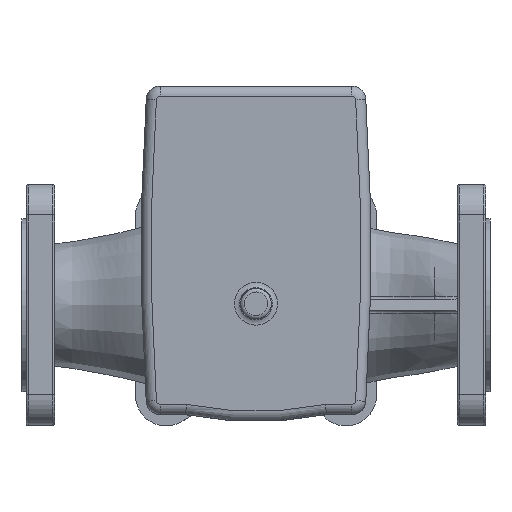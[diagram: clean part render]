
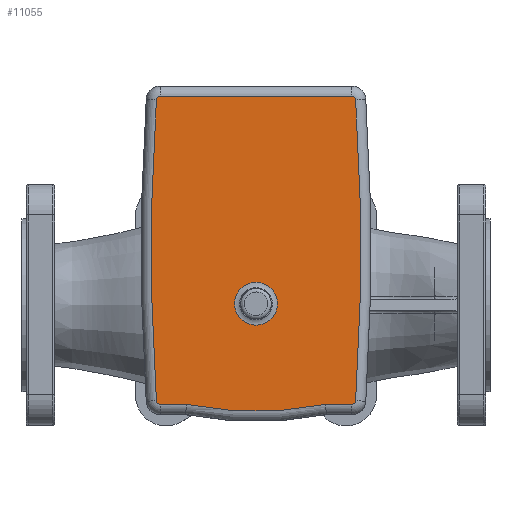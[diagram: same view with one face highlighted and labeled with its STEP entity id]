
A CAD part, top view. The second image highlights one B-rep face of the part: STEP entity #11055.
In plain terms, the highlighted planar face has unit normal (0, 0, 1).
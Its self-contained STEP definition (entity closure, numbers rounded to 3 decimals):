
#872=LINE('',#24552,#1528);
#873=LINE('',#24556,#1529);
#874=LINE('',#24564,#1530);
#1528=VECTOR('',#18247,1000.);
#1529=VECTOR('',#18250,1000.);
#1530=VECTOR('',#18257,1000.);
#1938=PLANE('',#15416);
#2570=CIRCLE('',#15417,10.521);
#2571=CIRCLE('',#15418,1.964);
#2572=CIRCLE('',#15419,169.964);
#2573=CIRCLE('',#15420,1.964);
#2574=CIRCLE('',#15421,1096.964);
#2575=CIRCLE('',#15422,1.964);
#2576=CIRCLE('',#15423,1.964);
#2577=CIRCLE('',#15424,1096.964);
#5051=ORIENTED_EDGE('',*,*,#7037,.T.);
#5052=ORIENTED_EDGE('',*,*,#7038,.T.);
#5053=ORIENTED_EDGE('',*,*,#7039,.T.);
#5054=ORIENTED_EDGE('',*,*,#7040,.T.);
#5055=ORIENTED_EDGE('',*,*,#7041,.T.);
#5056=ORIENTED_EDGE('',*,*,#7042,.T.);
#5057=ORIENTED_EDGE('',*,*,#7043,.T.);
#5058=ORIENTED_EDGE('',*,*,#7044,.T.);
#5059=ORIENTED_EDGE('',*,*,#7045,.T.);
#5060=ORIENTED_EDGE('',*,*,#7046,.T.);
#5061=ORIENTED_EDGE('',*,*,#7047,.T.);
#7037=EDGE_CURVE('',#8189,#8189,#2570,.T.);
#7038=EDGE_CURVE('',#8190,#8191,#2571,.F.);
#7039=EDGE_CURVE('',#8191,#8192,#872,.F.);
#7040=EDGE_CURVE('',#8192,#8193,#2572,.F.);
#7041=EDGE_CURVE('',#8193,#8194,#873,.F.);
#7042=EDGE_CURVE('',#8194,#8195,#2573,.F.);
#7043=EDGE_CURVE('',#8195,#8196,#2574,.F.);
#7044=EDGE_CURVE('',#8196,#8197,#2575,.F.);
#7045=EDGE_CURVE('',#8197,#8198,#874,.F.);
#7046=EDGE_CURVE('',#8198,#8199,#2576,.F.);
#7047=EDGE_CURVE('',#8199,#8190,#2577,.F.);
#8189=VERTEX_POINT('',#24548);
#8190=VERTEX_POINT('',#24550);
#8191=VERTEX_POINT('',#24551);
#8192=VERTEX_POINT('',#24553);
#8193=VERTEX_POINT('',#24555);
#8194=VERTEX_POINT('',#24557);
#8195=VERTEX_POINT('',#24559);
#8196=VERTEX_POINT('',#24561);
#8197=VERTEX_POINT('',#24563);
#8198=VERTEX_POINT('',#24565);
#8199=VERTEX_POINT('',#24567);
#9358=EDGE_LOOP('',(#5051));
#9359=EDGE_LOOP('',(#5052,#5053,#5054,#5055,#5056,#5057,#5058,#5059,#5060,
#5061));
#10277=FACE_BOUND('',#9358,.T.);
#10278=FACE_BOUND('',#9359,.T.);
#11055=ADVANCED_FACE('',(#10277,#10278),#1938,.F.);
#15416=AXIS2_PLACEMENT_3D('',#24546,#18241,#18242);
#15417=AXIS2_PLACEMENT_3D('',#24547,#18243,#18244);
#15418=AXIS2_PLACEMENT_3D('',#24549,#18245,#18246);
#15419=AXIS2_PLACEMENT_3D('',#24554,#18248,#18249);
#15420=AXIS2_PLACEMENT_3D('',#24558,#18251,#18252);
#15421=AXIS2_PLACEMENT_3D('',#24560,#18253,#18254);
#15422=AXIS2_PLACEMENT_3D('',#24562,#18255,#18256);
#15423=AXIS2_PLACEMENT_3D('',#24566,#18258,#18259);
#15424=AXIS2_PLACEMENT_3D('',#24568,#18260,#18261);
#18241=DIRECTION('',(0.,0.,-1.));
#18242=DIRECTION('',(-1.,0.,0.));
#18243=DIRECTION('',(0.,0.,-1.));
#18244=DIRECTION('',(-1.,0.,0.));
#18245=DIRECTION('',(0.,0.,-1.));
#18246=DIRECTION('',(-1.,0.,0.));
#18247=DIRECTION('',(0.,1.,0.));
#18248=DIRECTION('',(0.,0.,-1.));
#18249=DIRECTION('',(-1.,0.,0.));
#18250=DIRECTION('',(0.,1.,0.));
#18251=DIRECTION('',(0.,0.,-1.));
#18252=DIRECTION('',(-1.,0.,0.));
#18253=DIRECTION('',(0.,0.,-1.));
#18254=DIRECTION('',(-1.,0.,0.));
#18255=DIRECTION('',(0.,0.,-1.));
#18256=DIRECTION('',(-1.,0.,0.));
#18257=DIRECTION('',(0.,-1.,0.));
#18258=DIRECTION('',(0.,0.,-1.));
#18259=DIRECTION('',(-1.,0.,0.));
#18260=DIRECTION('',(0.,0.,-1.));
#18261=DIRECTION('',(-1.,0.,0.));
#24546=CARTESIAN_POINT('',(0.,0.,109.084));
#24547=CARTESIAN_POINT('',(0.,0.,109.084));
#24548=CARTESIAN_POINT('',(-10.521,0.,109.084));
#24549=CARTESIAN_POINT('',(-47.508,47.,109.084));
#24550=CARTESIAN_POINT('',(-47.64,48.96,109.084));
#24551=CARTESIAN_POINT('',(-49.472,47.,109.084));
#24552=CARTESIAN_POINT('',(-49.472,34.599,109.084));
#24553=CARTESIAN_POINT('',(-49.472,34.096,109.084));
#24554=CARTESIAN_POINT('',(117.037,0.,109.084));
#24555=CARTESIAN_POINT('',(-49.472,-34.096,109.084));
#24556=CARTESIAN_POINT('',(-49.472,-47.,109.084));
#24557=CARTESIAN_POINT('',(-49.472,-47.,109.084));
#24558=CARTESIAN_POINT('',(-47.508,-47.,109.084));
#24559=CARTESIAN_POINT('',(-47.64,-48.96,109.084));
#24560=CARTESIAN_POINT('',(26.246,1045.513,109.084));
#24561=CARTESIAN_POINT('',(100.132,-48.96,109.084));
#24562=CARTESIAN_POINT('',(100.,-47.,109.084));
#24563=CARTESIAN_POINT('',(101.964,-47.,109.084));
#24564=CARTESIAN_POINT('',(101.964,47.,109.084));
#24565=CARTESIAN_POINT('',(101.964,47.,109.084));
#24566=CARTESIAN_POINT('',(100.,47.,109.084));
#24567=CARTESIAN_POINT('',(100.132,48.96,109.084));
#24568=CARTESIAN_POINT('',(26.246,-1045.513,109.084));
